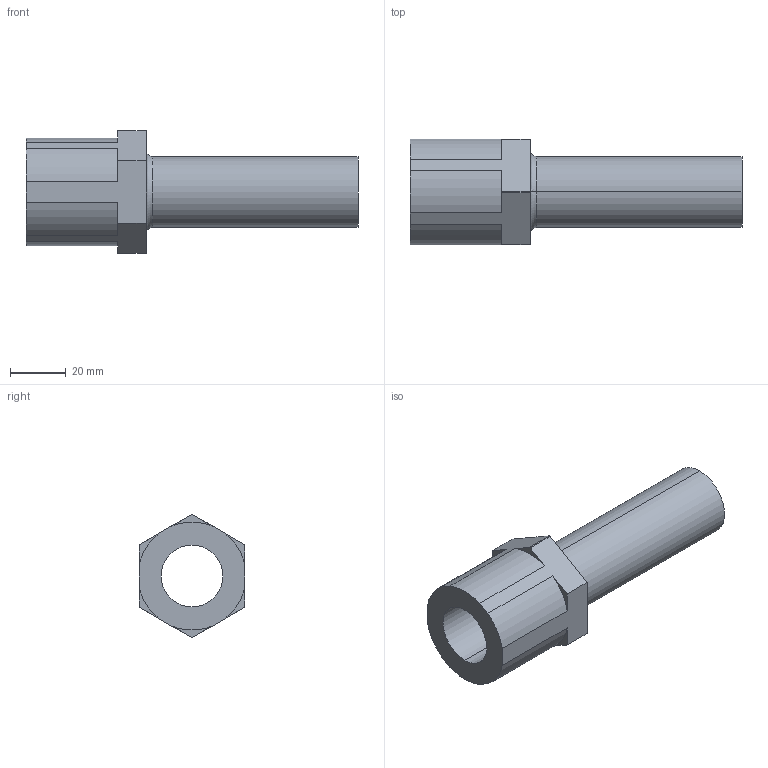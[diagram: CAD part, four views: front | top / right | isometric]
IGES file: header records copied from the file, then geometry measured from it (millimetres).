
Start section: SolidWorks IGES file using analytic representation for surfaces
Global section: file name: S:\Product Visuals\Pumps to be Defeatured\140 fittings\FITTING ASSEMBLIES\DEFEATURED\16-tube-out.IGS; native system: SolidWorks 2012; preprocessor: SolidWorks 2012; author: rachel.dressel; date: 121203.120619; units: inch
Bounding box: 119.38 x 38.05 x 44.2 mm (x, y, z)
Volume: 44165.3 mm3; surface area: 21475.2 mm2
Topology: 1 solids, 1 shells, 31 faces, 82 edges, 54 vertices
Faces by surface type: revolution 16, plane 15
